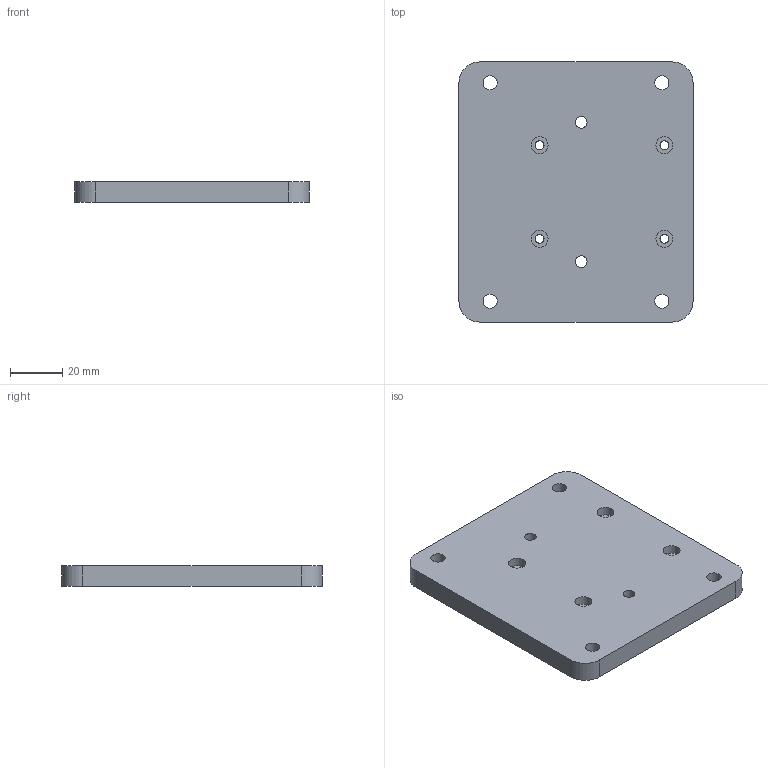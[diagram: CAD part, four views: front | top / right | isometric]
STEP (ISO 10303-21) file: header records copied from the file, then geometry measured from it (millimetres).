
FILE_DESCRIPTION(('Open CASCADE Model'),'2;1');
FILE_NAME('Open CASCADE Shape Model','2026-10-26T08:26:48',('Author'),( 'Open CASCADE'),'Open CASCADE STEP processor 7.8','Open CASCADE 7.8' ,'Unknown');
FILE_SCHEMA(('AUTOMOTIVE_DESIGN { 1 0 10303 214 1 1 1 1 }'));
Length unit declared in the file: millimetre
Products named in the file (1): Open CASCADE STEP translator 7.8 1
Bounding box: 90 x 100 x 8 mm (x, y, z)
Volume: 69608.5 mm3; surface area: 21850.2 mm2
Topology: 1 solids, 1 shells, 32 faces, 72 edges, 48 vertices
Faces by surface type: cylinder 20, plane 12
Full cylindrical faces by diameter (mm): 3.4 x4, 4.5 x2, 5.5 x4, 6.5 x4, 8 x2
Entity records: 1932 total; most frequent: CARTESIAN_POINT 357, DIRECTION 312, ORIENTED_EDGE 144, PCURVE 144, DEFINITIONAL_REPRESENTATION 144, LINE 136, VECTOR 136, AXIS2_PLACEMENT_3D 73
